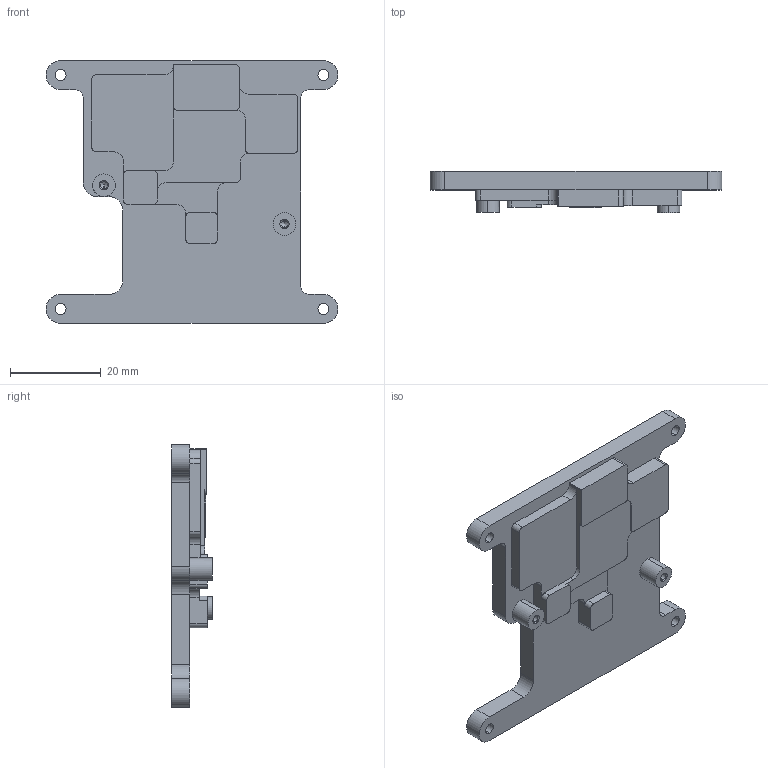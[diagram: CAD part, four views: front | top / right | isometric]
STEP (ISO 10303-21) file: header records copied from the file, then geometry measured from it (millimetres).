
FILE_DESCRIPTION (( 'STEP AP214' ), '1' );
FILE_NAME ('341C_1002_V02_B.STEP', '2023-07-10T05:59:06', ( '' ), ( '' ), 'SwSTEP 2.0', 'SolidWorks 2019', '' );
FILE_SCHEMA (( 'AUTOMOTIVE_DESIGN' ));
Length unit declared in the file: millimetre
Products named in the file (1): 341C_1002_V02_B
Bounding box: 64.4 x 9 x 58 mm (x, y, z)
Volume: 14630.9 mm3; surface area: 7593.9 mm2
Topology: 1 solids, 1 shells, 118 faces, 448 edges, 342 vertices
Faces by surface type: plane 57, cylinder 53, cone 8
Entity records: 5268 total; most frequent: CARTESIAN_POINT 1188, ORIENTED_EDGE 888, DIRECTION 703, EDGE_CURVE 444, VERTEX_POINT 342, VECTOR 245, LINE 245, AXIS2_PLACEMENT_3D 229
